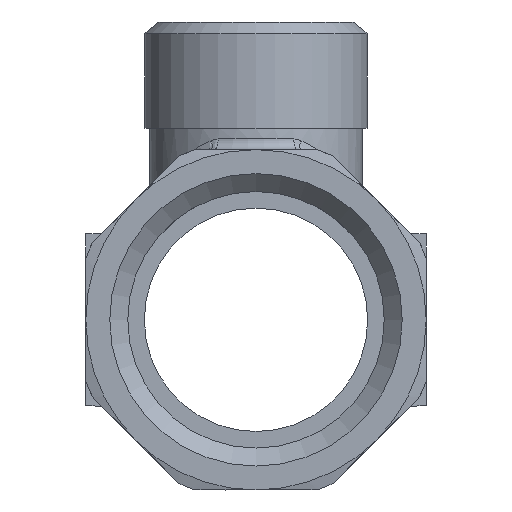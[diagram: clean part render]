
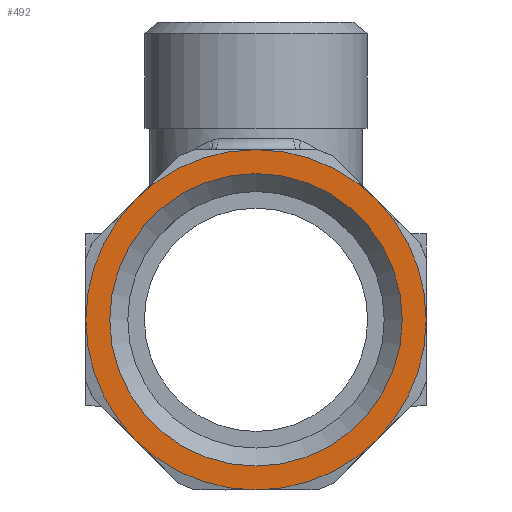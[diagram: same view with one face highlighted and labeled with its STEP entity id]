
A CAD part, front view. The second image highlights one B-rep face of the part: STEP entity #492.
In plain terms, the highlighted planar face has unit normal (0, -1, 0).
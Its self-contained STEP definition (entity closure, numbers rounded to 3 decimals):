
#492=ADVANCED_FACE('',(#5496,#5498),#5500,.F.);
#5496=FACE_BOUND('',#5497,.T.);
#5497=EDGE_LOOP('',(#10201,#10202,#10203,#10204,#10205,#10206,#10207,#10208));
#5498=FACE_BOUND('',#5499,.T.);
#5499=EDGE_LOOP('',(#10209));
#5500=PLANE('',#5501);
#5501=AXIS2_PLACEMENT_3D('',#5502,#5503,#5504);
#5502=CARTESIAN_POINT('',(0.,0.,0.));
#5503=DIRECTION('',(0.,1.,0.));
#5504=DIRECTION('',(-1.,0.,0.));
#10201=ORIENTED_EDGE('',*,*,#12854,.T.);
#10202=ORIENTED_EDGE('',*,*,#12853,.T.);
#10203=ORIENTED_EDGE('',*,*,#12852,.T.);
#10204=ORIENTED_EDGE('',*,*,#12851,.T.);
#10205=ORIENTED_EDGE('',*,*,#12850,.T.);
#10206=ORIENTED_EDGE('',*,*,#12849,.T.);
#10207=ORIENTED_EDGE('',*,*,#12848,.T.);
#10208=ORIENTED_EDGE('',*,*,#12855,.T.);
#10209=ORIENTED_EDGE('',*,*,#13019,.T.);
#12848=EDGE_CURVE('',#15388,#15444,#15484,.T.);
#12849=EDGE_CURVE('',#15396,#15388,#15485,.T.);
#12850=EDGE_CURVE('',#15404,#15396,#15486,.T.);
#12851=EDGE_CURVE('',#15412,#15404,#15487,.T.);
#12852=EDGE_CURVE('',#15420,#15412,#15488,.T.);
#12853=EDGE_CURVE('',#15428,#15420,#15489,.T.);
#12854=EDGE_CURVE('',#15436,#15428,#15490,.T.);
#12855=EDGE_CURVE('',#15444,#15436,#15491,.T.);
#13019=EDGE_CURVE('',#15818,#15818,#15819,.F.);
#15388=VERTEX_POINT('',#28225);
#15396=VERTEX_POINT('',#28282);
#15404=VERTEX_POINT('',#28331);
#15412=VERTEX_POINT('',#28388);
#15420=VERTEX_POINT('',#28437);
#15428=VERTEX_POINT('',#28494);
#15436=VERTEX_POINT('',#28543);
#15444=VERTEX_POINT('',#28615);
#15484=CIRCLE('',#28743,16.);
#15485=CIRCLE('',#28747,16.);
#15486=CIRCLE('',#28751,16.);
#15487=CIRCLE('',#28755,16.);
#15488=CIRCLE('',#28759,16.);
#15489=CIRCLE('',#28763,16.);
#15490=CIRCLE('',#28767,16.);
#15491=CIRCLE('',#28771,16.);
#15818=VERTEX_POINT('',#29430);
#15819=CIRCLE('',#29431,13.75);
#28225=CARTESIAN_POINT('',(0.,0.,16.));
#28282=CARTESIAN_POINT('',(11.314,0.,11.314));
#28331=CARTESIAN_POINT('',(16.,0.,0.));
#28388=CARTESIAN_POINT('',(11.314,0.,-11.314));
#28437=CARTESIAN_POINT('',(0.,0.,-16.));
#28494=CARTESIAN_POINT('',(-11.314,0.,-11.314));
#28543=CARTESIAN_POINT('',(-16.,0.,0.));
#28615=CARTESIAN_POINT('',(-11.314,0.,11.314));
#28743=AXIS2_PLACEMENT_3D('',#28744,#28745,#28746);
#28744=CARTESIAN_POINT('',(0.,0.,0.));
#28745=DIRECTION('',(0.,-1.,0.));
#28746=DIRECTION('',(0.,0.,1.));
#28747=AXIS2_PLACEMENT_3D('',#28748,#28749,#28750);
#28748=CARTESIAN_POINT('',(0.,0.,0.));
#28749=DIRECTION('',(0.,-1.,0.));
#28750=DIRECTION('',(0.707,0.,0.707));
#28751=AXIS2_PLACEMENT_3D('',#28752,#28753,#28754);
#28752=CARTESIAN_POINT('',(0.,0.,0.));
#28753=DIRECTION('',(0.,-1.,0.));
#28754=DIRECTION('',(1.,0.,0.));
#28755=AXIS2_PLACEMENT_3D('',#28756,#28757,#28758);
#28756=CARTESIAN_POINT('',(0.,0.,0.));
#28757=DIRECTION('',(0.,-1.,0.));
#28758=DIRECTION('',(0.707,0.,-0.707));
#28759=AXIS2_PLACEMENT_3D('',#28760,#28761,#28762);
#28760=CARTESIAN_POINT('',(0.,0.,0.));
#28761=DIRECTION('',(0.,-1.,0.));
#28762=DIRECTION('',(0.,0.,-1.));
#28763=AXIS2_PLACEMENT_3D('',#28764,#28765,#28766);
#28764=CARTESIAN_POINT('',(0.,0.,0.));
#28765=DIRECTION('',(0.,-1.,0.));
#28766=DIRECTION('',(-0.707,0.,-0.707));
#28767=AXIS2_PLACEMENT_3D('',#28768,#28769,#28770);
#28768=CARTESIAN_POINT('',(0.,0.,0.));
#28769=DIRECTION('',(0.,-1.,0.));
#28770=DIRECTION('',(-1.,0.,0.));
#28771=AXIS2_PLACEMENT_3D('',#28772,#28773,#28774);
#28772=CARTESIAN_POINT('',(0.,0.,0.));
#28773=DIRECTION('',(0.,-1.,0.));
#28774=DIRECTION('',(-0.707,0.,0.707));
#29430=CARTESIAN_POINT('',(13.75,0.,0.));
#29431=AXIS2_PLACEMENT_3D('',#29432,#29433,#29434);
#29432=CARTESIAN_POINT('',(0.,0.,0.));
#29433=DIRECTION('',(0.,-1.,0.));
#29434=DIRECTION('',(1.,0.,0.));
